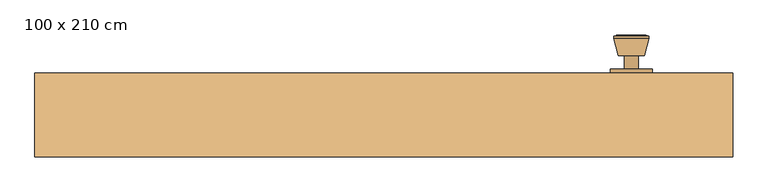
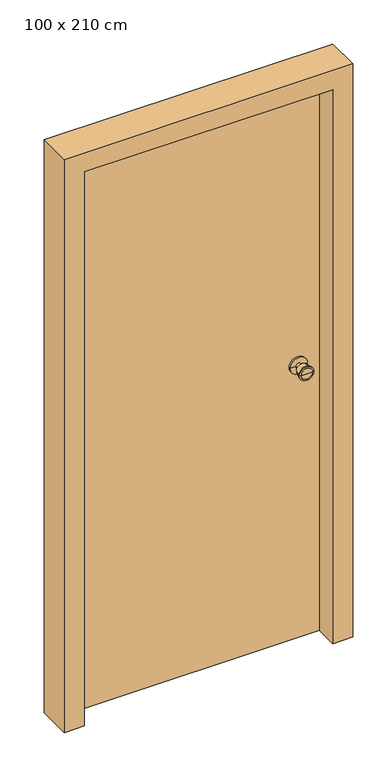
"""IFC4 building model written with IfcOpenShell, lengths in millimetres: door geometry, 單開-矩形- (1) : 100 x 210 cm."""

from ifc_helpers import new_model, si_unit, frame, origin, origin_with_axes, place, context, project, spatial, polyline, circle_curve, outline, extrude, faceted_brep, source, transform, mapped, element, save
from ifc_brep_helpers import plane_surface, cylinder_surface, revolved_surface, advanced_brep


def door_100_x_210_cm_7fcb26db(model_context):
    return source(origin(), model_context, "Body", "SolidModel", [
        advanced_brep(
        [(385.0, -144.0, 1000.0), (385.0, -150.0, 1000.0), (325.0, -150.0, 1000.0), (325.0, -144.0, 1000.0), (365.0, -144.0, 1000.0), (345.0, -144.0, 1000.0), (365.0, -125.0, 1000.0), (345.0, -125.0, 1000.0), (373.6, -125.0, 1000.0), (336.4, -125.0, 1000.0), (380.0, -100.3, 1000.0), (330.0, -100.3, 1000.0), (380.0, -96.8, 1000.0), (330.0, -96.8, 1000.0), (375.5, -95.0, 1000.0), (334.5, -95.0, 1000.0), (355.0, -95.0, 1000.0), (355.0, -150.0, 1000.0)],
        [
            (0, 1),
            (1, 2, circle_curve(frame((355.0, -150.0, 1000.0), z_axis=(0.0, 1.0, 0.0), x_axis=(-1.0, 0.0, 0.0)), 30.0)),
            (2, 3),
            (3, 0, circle_curve(frame((355.0, -144.0, 1000.0), z_axis=(0.0, -1.0, 0.0), x_axis=(-1.0, 0.0, 0.0)), 30.0)),
            (2, 1, circle_curve(frame((355.0, -150.0, 1000.0), z_axis=(0.0, 1.0, 0.0), x_axis=(-1.0, 0.0, 0.0)), 30.0)),
            (0, 3, circle_curve(frame((355.0, -144.0, 1000.0), z_axis=(0.0, -1.0, 0.0), x_axis=(-1.0, 0.0, 0.0)), 30.0)),
            (4, 0),
            (3, 5),
            (5, 4, circle_curve(frame((355.0, -144.0, 1000.0), z_axis=(0.0, -1.0, 0.0), x_axis=(-1.0, 0.0, 0.0)), 10.0)),
            (4, 5, circle_curve(frame((355.0, -144.0, 1000.0), z_axis=(0.0, -1.0, 0.0), x_axis=(-1.0, 0.0, 0.0)), 10.0)),
            (6, 4),
            (5, 7),
            (7, 6, circle_curve(frame((355.0, -125.0, 1000.0), z_axis=(0.0, -1.0, 0.0), x_axis=(-1.0, 0.0, 0.0)), 10.0)),
            (6, 7, circle_curve(frame((355.0, -125.0, 1000.0), z_axis=(0.0, -1.0, 0.0), x_axis=(-1.0, 0.0, 0.0)), 10.0)),
            (8, 6),
            (7, 9),
            (9, 8, circle_curve(frame((355.0, -125.0, 1000.0), z_axis=(0.0, -1.0, 0.0), x_axis=(-1.0, 0.0, 0.0)), 18.6)),
            (8, 9, circle_curve(frame((355.0, -125.0, 1000.0), z_axis=(0.0, -1.0, 0.0), x_axis=(-1.0, 0.0, 0.0)), 18.6)),
            (10, 8),
            (9, 11),
            (11, 10, circle_curve(frame((355.0, -100.3, 1000.0), z_axis=(0.0, -1.0, 0.0), x_axis=(-1.0, 0.0, 0.0)), 25.0)),
            (10, 11, circle_curve(frame((355.0, -100.3, 1000.0), z_axis=(0.0, -1.0, 0.0), x_axis=(-1.0, 0.0, 0.0)), 25.0)),
            (12, 10),
            (11, 13),
            (13, 12, circle_curve(frame((355.0, -96.8, 1000.0), z_axis=(0.0, -1.0, 0.0), x_axis=(-1.0, 0.0, 0.0)), 25.0)),
            (12, 13, circle_curve(frame((355.0, -96.8, 1000.0), z_axis=(0.0, -1.0, 0.0), x_axis=(-1.0, 0.0, 0.0)), 25.0)),
            (14, 12),
            (13, 15),
            (15, 14, circle_curve(frame((355.0, -95.0, 1000.0), z_axis=(0.0, -1.0, 0.0), x_axis=(-1.0, 0.0, 0.0)), 20.5)),
            (14, 15, circle_curve(frame((355.0, -95.0, 1000.0), z_axis=(0.0, -1.0, 0.0), x_axis=(-1.0, 0.0, 0.0)), 20.5)),
            (16, 14),
            (15, 16),
            (1, 17),
            (17, 2),
        ],
        [
            cylinder_surface(frame((355.0, -210.0, 1000.0), z_axis=(0.0, 1.0, 0.0), x_axis=(-1.0, 0.0, 0.0)), 30.0),
            plane_surface(frame((355.0, -144.0, 1000.0), z_axis=(0.0, 1.0, 0.0), x_axis=(-1.0, 0.0, 0.0))),
            cylinder_surface(frame((355.0, -210.0, 1000.0), z_axis=(0.0, 1.0, 0.0), x_axis=(-1.0, 0.0, 0.0)), 10.0),
            plane_surface(frame((355.0, -125.0, 1000.0), z_axis=(0.0, -1.0, 0.0), x_axis=(-1.0, 0.0, 0.0))),
            revolved_surface(polyline([(336.4, -125.0, 1000.0), (330.0, -100.3, 1000.0)]), (355.0, -210.0, 1000.0), (0.0, 1.0, 0.0)),
            cylinder_surface(frame((355.0, -210.0, 1000.0), z_axis=(0.0, 1.0, 0.0), x_axis=(-1.0, 0.0, 0.0)), 25.0),
            revolved_surface(polyline([(330.0, -96.8, 1000.0), (334.5, -95.0, 1000.0)]), (355.0, -210.0, 1000.0), (0.0, 1.0, 0.0)),
            plane_surface(frame((355.0, -95.0, 1000.0), z_axis=(0.0, 1.0, 0.0), x_axis=(-1.0, 0.0, 0.0))),
            plane_surface(frame((355.0, -150.0, 1000.0), z_axis=(0.0, -1.0, 0.0), x_axis=(-1.0, 0.0, 0.0))),
        ],
        [
            (0, [[1, 2, 3, 4]]),
            (0, [[-3, 5, -1, 6]]),
            (1, [[7, -4, 8, 9]]),
            (1, [[-8, -6, -7, 10]]),
            (2, [[11, -9, 12, 13]]),
            (2, [[-12, -10, -11, 14]]),
            (3, [[15, -13, 16, 17]]),
            (3, [[-16, -14, -15, 18]]),
            (4, [[19, -17, 20, 21]]),
            (4, [[-20, -18, -19, 22]]),
            (5, [[23, -21, 24, 25]]),
            (5, [[-24, -22, -23, 26]]),
            (6, [[27, -25, 28, 29]]),
            (6, [[-28, -26, -27, 30]]),
            (7, [[31, -29, 32]]),
            (7, [[-32, -30, -31]]),
            (8, [[33, 34, -2]]),
            (8, [[-34, -33, -5]]),
        ],
    ),
        advanced_brep(
        [(385.0, -196.0, 1000.0), (325.0, -196.0, 1000.0), (325.0, -190.0, 1000.0), (385.0, -190.0, 1000.0), (365.0, -196.0, 1000.0), (345.0, -196.0, 1000.0), (365.0, -215.0, 1000.0), (345.0, -215.0, 1000.0), (373.6, -215.0, 1000.0), (336.4, -215.0, 1000.0), (380.0, -239.7, 1000.0), (330.0, -239.7, 1000.0), (380.0, -243.2, 1000.0), (330.0, -243.2, 1000.0), (375.5, -245.0, 1000.0), (334.5, -245.0, 1000.0), (355.0, -245.0, 1000.0), (355.0, -190.0, 1000.0)],
        [
            (0, 1, circle_curve(frame((355.0, -196.0, 1000.0), z_axis=(0.0, 1.0, 0.0), x_axis=(-1.0, 0.0, 0.0)), 30.0)),
            (1, 2),
            (2, 3, circle_curve(frame((355.0, -190.0, 1000.0), z_axis=(0.0, -1.0, 0.0), x_axis=(-1.0, 0.0, 0.0)), 30.0)),
            (3, 0),
            (1, 0, circle_curve(frame((355.0, -196.0, 1000.0), z_axis=(0.0, 1.0, 0.0), x_axis=(-1.0, 0.0, 0.0)), 30.0)),
            (3, 2, circle_curve(frame((355.0, -190.0, 1000.0), z_axis=(0.0, -1.0, 0.0), x_axis=(-1.0, 0.0, 0.0)), 30.0)),
            (4, 5, circle_curve(frame((355.0, -196.0, 1000.0), z_axis=(0.0, 1.0, 0.0), x_axis=(-1.0, 0.0, 0.0)), 10.0)),
            (5, 1),
            (0, 4),
            (5, 4, circle_curve(frame((355.0, -196.0, 1000.0), z_axis=(0.0, 1.0, 0.0), x_axis=(-1.0, 0.0, 0.0)), 10.0)),
            (6, 7, circle_curve(frame((355.0, -215.0, 1000.0), z_axis=(0.0, 1.0, 0.0), x_axis=(-1.0, 0.0, 0.0)), 10.0)),
            (7, 5),
            (4, 6),
            (7, 6, circle_curve(frame((355.0, -215.0, 1000.0), z_axis=(0.0, 1.0, 0.0), x_axis=(-1.0, 0.0, 0.0)), 10.0)),
            (8, 9, circle_curve(frame((355.0, -215.0, 1000.0), z_axis=(0.0, 1.0, 0.0), x_axis=(-1.0, 0.0, 0.0)), 18.6)),
            (9, 7),
            (6, 8),
            (9, 8, circle_curve(frame((355.0, -215.0, 1000.0), z_axis=(0.0, 1.0, 0.0), x_axis=(-1.0, 0.0, 0.0)), 18.6)),
            (10, 11, circle_curve(frame((355.0, -239.7, 1000.0), z_axis=(0.0, 1.0, 0.0), x_axis=(-1.0, 0.0, 0.0)), 25.0)),
            (11, 9),
            (8, 10),
            (11, 10, circle_curve(frame((355.0, -239.7, 1000.0), z_axis=(0.0, 1.0, 0.0), x_axis=(-1.0, 0.0, 0.0)), 25.0)),
            (12, 13, circle_curve(frame((355.0, -243.2, 1000.0), z_axis=(0.0, 1.0, 0.0), x_axis=(-1.0, 0.0, 0.0)), 25.0)),
            (13, 11),
            (10, 12),
            (13, 12, circle_curve(frame((355.0, -243.2, 1000.0), z_axis=(0.0, 1.0, 0.0), x_axis=(-1.0, 0.0, 0.0)), 25.0)),
            (14, 15, circle_curve(frame((355.0, -245.0, 1000.0), z_axis=(0.0, 1.0, 0.0), x_axis=(-1.0, 0.0, 0.0)), 20.5)),
            (15, 13),
            (12, 14),
            (15, 14, circle_curve(frame((355.0, -245.0, 1000.0), z_axis=(0.0, 1.0, 0.0), x_axis=(-1.0, 0.0, 0.0)), 20.5)),
            (16, 15),
            (14, 16),
            (2, 17),
            (17, 3),
        ],
        [
            cylinder_surface(frame((355.0, -130.0, 1000.0), z_axis=(0.0, -1.0, 0.0), x_axis=(-1.0, 0.0, 0.0)), 30.0),
            plane_surface(frame((355.0, -196.0, 1000.0), z_axis=(0.0, -1.0, 0.0), x_axis=(-1.0, 0.0, 0.0))),
            cylinder_surface(frame((355.0, -130.0, 1000.0), z_axis=(0.0, -1.0, 0.0), x_axis=(-1.0, 0.0, 0.0)), 10.0),
            plane_surface(frame((355.0, -215.0, 1000.0), z_axis=(0.0, 1.0, 0.0), x_axis=(-1.0, 0.0, 0.0))),
            revolved_surface(polyline([(336.4, -215.0, 1000.0), (330.0, -239.7, 1000.0)]), (355.0, -130.0, 1000.0), (0.0, -1.0, 0.0)),
            cylinder_surface(frame((355.0, -130.0, 1000.0), z_axis=(0.0, -1.0, 0.0), x_axis=(-1.0, 0.0, 0.0)), 25.0),
            revolved_surface(polyline([(330.0, -243.2, 1000.0), (334.5, -245.0, 1000.0)]), (355.0, -130.0, 1000.0), (0.0, -1.0, 0.0)),
            plane_surface(frame((355.0, -245.0, 1000.0), z_axis=(0.0, -1.0, 0.0), x_axis=(-1.0, 0.0, 0.0))),
            plane_surface(frame((355.0, -190.0, 1000.0), z_axis=(0.0, 1.0, 0.0), x_axis=(-1.0, 0.0, 0.0))),
        ],
        [
            (0, [[1, 2, 3, 4]]),
            (0, [[5, -4, 6, -2]]),
            (1, [[7, 8, -1, 9]]),
            (1, [[10, -9, -5, -8]]),
            (2, [[11, 12, -7, 13]]),
            (2, [[14, -13, -10, -12]]),
            (3, [[15, 16, -11, 17]]),
            (3, [[18, -17, -14, -16]]),
            (4, [[19, 20, -15, 21]]),
            (4, [[22, -21, -18, -20]]),
            (5, [[23, 24, -19, 25]]),
            (5, [[26, -25, -22, -24]]),
            (6, [[27, 28, -23, 29]]),
            (6, [[30, -29, -26, -28]]),
            (7, [[31, -27, 32]]),
            (7, [[-32, -30, -31]]),
            (8, [[-3, 33, 34]]),
            (8, [[-6, -34, -33]]),
        ],
    ),
        extrude(outline(polyline([(450.0, -190.0), (-450.0, -190.0), (-450.0, -150.0), (450.0, -150.0), (450.0, -190.0)])), origin_with_axes(), (0.0, 0.0, 1.0), 2050.0),
        faceted_brep([(450.0, -150.0, 0.0), (500.0, -150.0, 0.0), (500.0, -270.0, 0.0), (430.0, -270.0, 0.0), (430.0, -190.0, 0.0), (450.0, -190.0, 0.0), (450.0, -150.0, 2050.0), (-450.0, -150.0, 2050.0), (-450.0, -150.0, 0.0), (-500.0, -150.0, 0.0), (-500.0, -150.0, 2100.0), (500.0, -150.0, 2100.0), (500.0, -270.0, 2100.0), (-500.0, -270.0, 2100.0), (-500.0, -270.0, 0.0), (-430.0, -270.0, 0.0), (-430.0, -270.0, 2030.0), (430.0, -270.0, 2030.0), (430.0, -190.0, 2030.0), (-430.0, -190.0, 2030.0), (-430.0, -190.0, 0.0), (-450.0, -190.0, 0.0), (-450.0, -190.0, 2050.0), (450.0, -190.0, 2050.0)], [[[0, 1, 2, 3, 4, 5]], [[1, 0, 6, 7, 8, 9, 10, 11]], [[2, 1, 11, 12]], [[3, 2, 12, 13, 14, 15, 16, 17]], [[4, 3, 17, 18]], [[5, 4, 18, 19, 20, 21, 22, 23]], [[0, 5, 23, 6]], [[12, 11, 10, 13]], [[18, 17, 16, 19]], [[6, 23, 22, 7]], [[8, 21, 20, 15, 14, 9]], [[13, 10, 9, 14]], [[19, 16, 15, 20]], [[7, 22, 21, 8]]]),
    ])


if __name__ == "__main__":
    model = new_model("IFC4")
    model_context = context("Model", 3, world=origin())
    ifc_project = project(units=[si_unit("LENGTHUNIT", "METRE", prefix="MILLI")], contexts=[model_context])
    site = spatial("IfcSite", under=ifc_project)
    building = spatial("IfcBuilding", under=site)
    placement = place(None, origin())
    door_100_x_210_cm_shape = door_100_x_210_cm_7fcb26db(model_context)
    element("IfcDoor", 1, ObjectType="單開-矩形- (1) : 100 x 210 cm", at=placement, inside=building, context=model_context, shape_type="MappedRepresentation", body=[
        mapped(door_100_x_210_cm_shape, transform((0.0, 0.0, 0.0), x_axis=(1.0, 0.0, 0.0), y_axis=(0.0, 1.0, 0.0), z_axis=(0.0, 0.0, 1.0))),
    ])
    save(model, "model.ifc")
